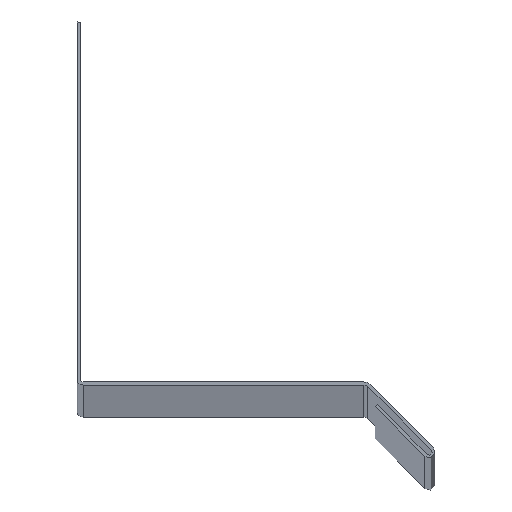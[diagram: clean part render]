
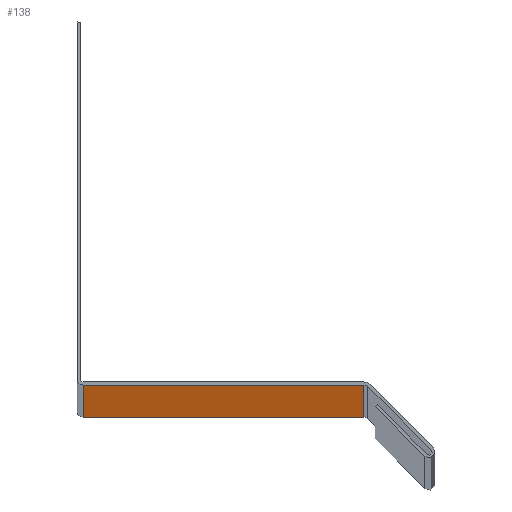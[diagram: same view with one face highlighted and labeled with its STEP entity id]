
A CAD part, top view. The second image highlights one B-rep face of the part: STEP entity #138.
In plain terms, the highlighted planar face has unit normal (0, -1, 0).
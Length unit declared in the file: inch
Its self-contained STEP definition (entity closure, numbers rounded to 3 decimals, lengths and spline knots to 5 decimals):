
#15 = EDGE_CURVE ( 'NONE', #35, #252, #693, .T. ) ;
#23 = DIRECTION ( 'NONE',  ( 1., 0., 0. ) ) ;
#26 = CARTESIAN_POINT ( 'NONE',  ( 0.03937, 0., 120. ) ) ;
#27 = VECTOR ( 'NONE', #23, 39.37008 ) ;
#35 = VERTEX_POINT ( 'NONE', #361 ) ;
#119 = VERTEX_POINT ( 'NONE', #515 ) ;
#132 = CARTESIAN_POINT ( 'NONE',  ( 1.875, 0., 120. ) ) ;
#138 = ADVANCED_FACE ( 'NONE', ( #198 ), #405, .F. ) ;
#176 = VECTOR ( 'NONE', #504, 39.37008 ) ;
#190 = DIRECTION ( 'NONE',  ( 0., 0., -1. ) ) ;
#193 = DIRECTION ( 'NONE',  ( 0., 1., 0. ) ) ;
#198 = FACE_OUTER_BOUND ( 'NONE', #290, .T. ) ;
#235 = VECTOR ( 'NONE', #706, 39.37008 ) ;
#252 = VERTEX_POINT ( 'NONE', #132 ) ;
#253 = ORIENTED_EDGE ( 'NONE', *, *, #464, .F. ) ;
#278 = CARTESIAN_POINT ( 'NONE',  ( 1.875, 0., 120. ) ) ;
#279 = ORIENTED_EDGE ( 'NONE', *, *, #15, .F. ) ;
#290 = EDGE_LOOP ( 'NONE', ( #419, #253, #279, #556 ) ) ;
#299 = EDGE_CURVE ( 'NONE', #35, #585, #680, .T. ) ;
#346 = LINE ( 'NONE', #439, #176 ) ;
#361 = CARTESIAN_POINT ( 'NONE',  ( 0.03937, 0., 120. ) ) ;
#400 = AXIS2_PLACEMENT_3D ( 'NONE', #686, #193, #694 ) ;
#405 = PLANE ( 'NONE',  #400 ) ;
#419 = ORIENTED_EDGE ( 'NONE', *, *, #724, .T. ) ;
#439 = CARTESIAN_POINT ( 'NONE',  ( 0.03937, 0., 0. ) ) ;
#444 = CARTESIAN_POINT ( 'NONE',  ( 0.03937, 0., 0. ) ) ;
#464 = EDGE_CURVE ( 'NONE', #252, #119, #502, .T. ) ;
#493 = VECTOR ( 'NONE', #190, 39.37008 ) ;
#502 = LINE ( 'NONE', #278, #235 ) ;
#504 = DIRECTION ( 'NONE',  ( 1., 0., 0. ) ) ;
#515 = CARTESIAN_POINT ( 'NONE',  ( 1.875, 0., 0. ) ) ;
#556 = ORIENTED_EDGE ( 'NONE', *, *, #299, .T. ) ;
#585 = VERTEX_POINT ( 'NONE', #444 ) ;
#634 = CARTESIAN_POINT ( 'NONE',  ( 0.03937, 0., 120. ) ) ;
#680 = LINE ( 'NONE', #634, #493 ) ;
#686 = CARTESIAN_POINT ( 'NONE',  ( 0.03937, 0., 120. ) ) ;
#693 = LINE ( 'NONE', #26, #27 ) ;
#694 = DIRECTION ( 'NONE',  ( 0., 0., 1. ) ) ;
#706 = DIRECTION ( 'NONE',  ( 0., 0., -1. ) ) ;
#724 = EDGE_CURVE ( 'NONE', #585, #119, #346, .T. ) ;
